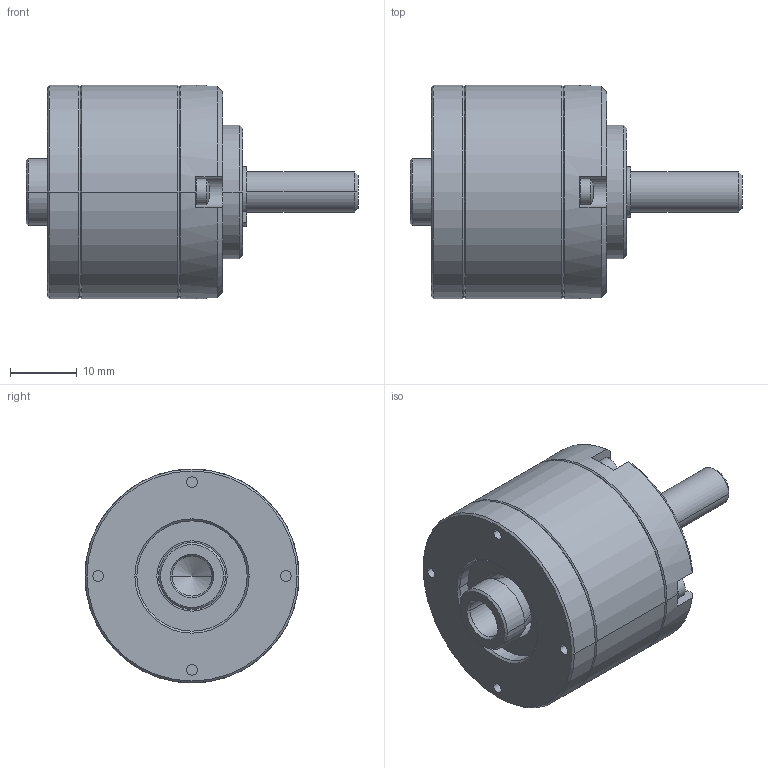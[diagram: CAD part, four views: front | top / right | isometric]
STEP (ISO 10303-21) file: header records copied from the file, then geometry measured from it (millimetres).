
FILE_DESCRIPTION((''),'2;1');
FILE_NAME('IMS32_PRO_1_STAGE_ASM','2024-09-02T13:25:39',('mhummel'),(''),'CREO PARAMETRIC BY PTC INC, 2020184','CREO PARAMETRIC BY PTC INC, 2020184','');
FILE_SCHEMA(('AUTOMOTIVE_DESIGN { 1 0 10303 214 1 1 1 1 }'));
Length unit declared in the file: millimetre
Products named in the file (14): IMS32_PRO_BEARING_FLANGE; IMS32_PRO_BALL_BEARING; IMS32_PRO_RETAINING_RING_J; IMS32_PRO_RING_GEAR_1_STAGE; IMS32_PRO_MOTOR_FLANGE; IMS32_PRO_SHIM_RING; IMS32_PRO_SHAFT_RAW_AF0; IMS32_PRO_SHAFT_ASM; IMS32_PRO_RETAINING_RING_A; IMS32_PRO_THRUST_WASHER_1_STAGE; IMS32_PRO_SCREW_1_STAGE; IMS32_PRO_PINION_LONG; IMS32_PRO_PINION_SHORT; IMS32_PRO_1_STAGE_ASM
Assembly tree (17 placements, depth 3):
  IMS32_PRO_1_STAGE_ASM
    IMS32_PRO_BEARING_FLANGE
    IMS32_PRO_BALL_BEARING  x2
    IMS32_PRO_RETAINING_RING_J
    IMS32_PRO_RING_GEAR_1_STAGE
    IMS32_PRO_MOTOR_FLANGE
    IMS32_PRO_SHIM_RING
    IMS32_PRO_SHAFT_ASM
      IMS32_PRO_SHAFT_RAW_AF0
    IMS32_PRO_RETAINING_RING_A
    IMS32_PRO_THRUST_WASHER_1_STAGE
    IMS32_PRO_SCREW_1_STAGE  x4
    IMS32_PRO_PINION_LONG
    IMS32_PRO_PINION_SHORT
Bounding box: 49.65 x 32 x 32 mm (x, y, z)
Volume: 17150.3 mm3; surface area: 15611.8 mm2
Topology: 20 solids, 22 shells, 468 faces, 1024 edges, 613 vertices
Faces by surface type: cylinder 204, plane 102, cone 96, torus 58, sphere 8
Entity records: 11950 total; most frequent: DIRECTION 1780, CARTESIAN_POINT 1530, ORIENTED_EDGE 1372, AXIS2_PLACEMENT_3D 758, PRESENTATION_STYLE_ASSIGNMENT 720, STYLED_ITEM 712, CURVE_STYLE 686, EDGE_CURVE 686
